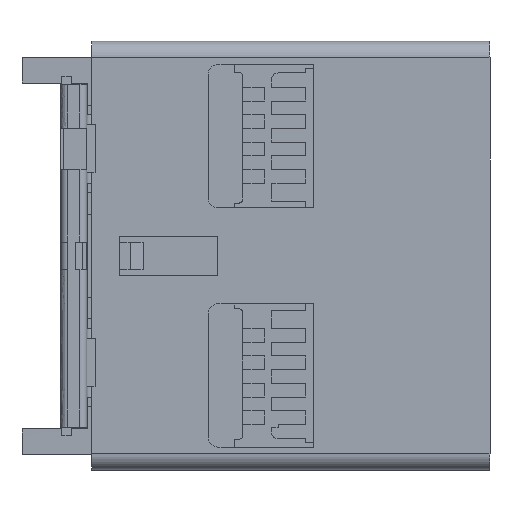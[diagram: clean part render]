
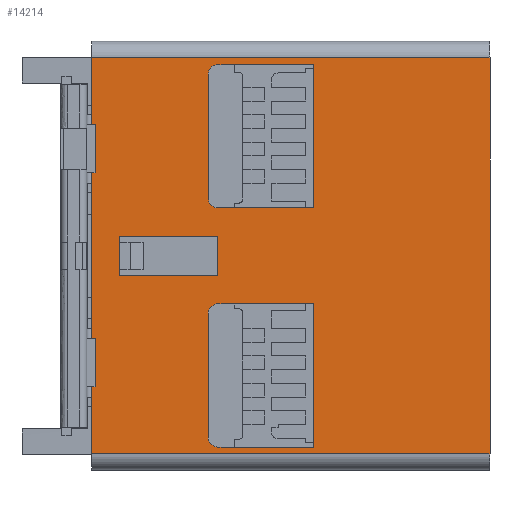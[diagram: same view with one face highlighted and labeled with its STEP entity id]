
A CAD part, top view. The second image highlights one B-rep face of the part: STEP entity #14214.
In plain terms, the highlighted free-form (B-spline) face has degree [1, 1] with [2, 2] control points.
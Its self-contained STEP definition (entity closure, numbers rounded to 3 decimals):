
#661=DIRECTION('',(1.,0.,0.));
#662=VECTOR('',#661,7.);
#663=CARTESIAN_POINT('',(-19.85,3.5,6.5));
#664=LINE('',#663,#662);
#722=DIRECTION('',(0.,1.,0.));
#723=VECTOR('',#722,11.55);
#724=CARTESIAN_POINT('',(0.,2.9,6.5));
#725=LINE('',#724,#723);
#726=DIRECTION('',(0.,-1.,0.));
#727=VECTOR('',#726,17.35);
#728=CARTESIAN_POINT('',(-29.05,2.9,6.5));
#729=LINE('',#728,#727);
#730=DIRECTION('',(-1.,0.,0.));
#731=VECTOR('',#730,7.2);
#732=CARTESIAN_POINT('',(-19.85,-1.4,6.5));
#733=LINE('',#732,#731);
#734=DIRECTION('',(0.,1.,0.));
#735=VECTOR('',#734,2.8);
#736=CARTESIAN_POINT('',(-27.05,-1.4,6.5));
#737=LINE('',#736,#735);
#738=DIRECTION('',(0.,-1.,0.));
#739=VECTOR('',#738,10.45);
#740=CARTESIAN_POINT('',(-12.85,-3.5,6.5));
#741=LINE('',#740,#739);
#742=CARTESIAN_POINT('',(-19.85,-4.2,6.5));
#743=DIRECTION('',(0.,0.,-1.));
#744=DIRECTION('',(-1.,0.,0.));
#745=AXIS2_PLACEMENT_3D('',#742,#743,#744);
#747=CARTESIAN_POINT('',(-19.85,-13.25,6.5));
#748=DIRECTION('',(0.,0.,-1.));
#749=DIRECTION('',(0.,-1.,0.));
#750=AXIS2_PLACEMENT_3D('',#747,#748,#749);
#752=DIRECTION('',(0.,-1.,0.));
#753=VECTOR('',#752,10.45);
#754=CARTESIAN_POINT('',(-12.85,13.95,6.5));
#755=LINE('',#754,#753);
#756=DIRECTION('',(1.,0.,0.));
#757=VECTOR('',#756,7.);
#758=CARTESIAN_POINT('',(-19.85,13.95,6.5));
#759=LINE('',#758,#757);
#760=CARTESIAN_POINT('',(-19.85,13.25,6.5));
#761=DIRECTION('',(0.,0.,-1.));
#762=DIRECTION('',(-1.,0.,0.));
#763=AXIS2_PLACEMENT_3D('',#760,#761,#762);
#765=CARTESIAN_POINT('',(-19.85,4.2,6.5));
#766=DIRECTION('',(0.,0.,-1.));
#767=DIRECTION('',(0.,-1.,0.));
#768=AXIS2_PLACEMENT_3D('',#765,#766,#767);
#770=DIRECTION('',(0.,-1.,0.));
#771=VECTOR('',#770,17.35);
#772=CARTESIAN_POINT('',(0.,2.9,6.5));
#773=LINE('',#772,#771);
#1042=DIRECTION('',(1.,0.,0.));
#1043=VECTOR('',#1042,29.05);
#1044=CARTESIAN_POINT('',(-29.05,14.45,6.5));
#1045=LINE('',#1044,#1043);
#1074=DIRECTION('',(0.,1.,0.));
#1075=VECTOR('',#1074,11.55);
#1076=CARTESIAN_POINT('',(-29.05,2.9,6.5));
#1077=LINE('',#1076,#1075);
#1082=DIRECTION('',(-1.,0.,0.));
#1083=VECTOR('',#1082,29.05);
#1084=CARTESIAN_POINT('',(0.,-14.45,6.5));
#1085=LINE('',#1084,#1083);
#5695=DIRECTION('',(1.,0.,0.));
#5696=VECTOR('',#5695,7.);
#5697=CARTESIAN_POINT('',(-19.85,-13.95,6.5));
#5698=LINE('',#5697,#5696);
#8789=DIRECTION('',(-1.,0.,0.));
#8790=VECTOR('',#8789,7.);
#8791=CARTESIAN_POINT('',(-12.85,-3.5,6.5));
#8792=LINE('',#8791,#8790);
#8858=DIRECTION('',(0.,-1.,0.));
#8859=VECTOR('',#8858,9.05);
#8860=CARTESIAN_POINT('',(-20.55,-4.2,6.5));
#8861=LINE('',#8860,#8859);
#9780=DIRECTION('',(0.,-1.,0.));
#9781=VECTOR('',#9780,9.05);
#9782=CARTESIAN_POINT('',(-20.55,13.25,6.5));
#9783=LINE('',#9782,#9781);
#10126=DIRECTION('',(-1.,0.,0.));
#10127=VECTOR('',#10126,7.2);
#10128=CARTESIAN_POINT('',(-19.85,1.4,6.5));
#10129=LINE('',#10128,#10127);
#10134=DIRECTION('',(0.,1.,0.));
#10135=VECTOR('',#10134,2.8);
#10136=CARTESIAN_POINT('',(-19.85,-1.4,6.5));
#10137=LINE('',#10136,#10135);
#11553=CARTESIAN_POINT('',(-19.85,3.5,6.5));
#11554=VERTEX_POINT('',#11553);
#11555=CARTESIAN_POINT('',(-12.85,3.5,6.5));
#11556=VERTEX_POINT('',#11555);
#11613=CARTESIAN_POINT('',(-12.85,13.95,6.5));
#11614=VERTEX_POINT('',#11613);
#11617=CARTESIAN_POINT('',(-20.55,4.2,6.5));
#11618=VERTEX_POINT('',#11617);
#11619=CARTESIAN_POINT('',(0.,2.9,6.5));
#11620=CARTESIAN_POINT('',(0.,14.45,6.5));
#11621=VERTEX_POINT('',#11619);
#11622=VERTEX_POINT('',#11620);
#11623=CARTESIAN_POINT('',(-29.05,14.45,6.5));
#11624=VERTEX_POINT('',#11623);
#11625=CARTESIAN_POINT('',(-29.05,2.9,6.5));
#11626=VERTEX_POINT('',#11625);
#11627=CARTESIAN_POINT('',(-29.05,-14.45,6.5));
#11628=VERTEX_POINT('',#11627);
#11629=CARTESIAN_POINT('',(0.,-14.45,6.5));
#11630=VERTEX_POINT('',#11629);
#11631=CARTESIAN_POINT('',(-19.85,-1.4,6.5));
#11632=CARTESIAN_POINT('',(-27.05,-1.4,6.5));
#11633=VERTEX_POINT('',#11631);
#11634=VERTEX_POINT('',#11632);
#11635=CARTESIAN_POINT('',(-27.05,1.4,6.5));
#11636=VERTEX_POINT('',#11635);
#11637=CARTESIAN_POINT('',(-19.85,1.4,6.5));
#11638=VERTEX_POINT('',#11637);
#11639=CARTESIAN_POINT('',(-12.85,-3.5,6.5));
#11640=CARTESIAN_POINT('',(-12.85,-13.95,6.5));
#11641=VERTEX_POINT('',#11639);
#11642=VERTEX_POINT('',#11640);
#11643=CARTESIAN_POINT('',(-19.85,-13.95,6.5));
#11644=VERTEX_POINT('',#11643);
#11645=CARTESIAN_POINT('',(-20.55,-13.25,6.5));
#11646=VERTEX_POINT('',#11645);
#11647=CARTESIAN_POINT('',(-20.55,-4.2,6.5));
#11648=VERTEX_POINT('',#11647);
#11649=CARTESIAN_POINT('',(-19.85,-3.5,6.5));
#11650=VERTEX_POINT('',#11649);
#11651=CARTESIAN_POINT('',(-20.55,13.25,6.5));
#11652=VERTEX_POINT('',#11651);
#11653=CARTESIAN_POINT('',(-19.85,13.95,6.5));
#11654=VERTEX_POINT('',#11653);
#14159=CARTESIAN_POINT('',(-29.631,-15.028,6.5));
#14160=CARTESIAN_POINT('',(-29.631,15.028,6.5));
#14161=CARTESIAN_POINT('',(0.581,-15.028,6.5));
#14162=CARTESIAN_POINT('',(0.581,15.028,6.5));
#14163=B_SPLINE_SURFACE_WITH_KNOTS('',1,1,((#14159,#14160),(#14161,#14162)),
.UNSPECIFIED.,.F.,.F.,.F.,(2,2),(2,2),(-29.631,0.581),(-17.928,12.128),
.UNSPECIFIED.);
#14165=ORIENTED_EDGE('',*,*,#14164,.F.);
#14167=ORIENTED_EDGE('',*,*,#14166,.T.);
#14169=ORIENTED_EDGE('',*,*,#14168,.T.);
#14171=ORIENTED_EDGE('',*,*,#14170,.F.);
#14173=ORIENTED_EDGE('',*,*,#14172,.T.);
#14175=ORIENTED_EDGE('',*,*,#14174,.T.);
#14176=EDGE_LOOP('',(#14165,#14167,#14169,#14171,#14173,#14175));
#14177=FACE_OUTER_BOUND('',#14176,.F.);
#14179=ORIENTED_EDGE('',*,*,#14178,.F.);
#14181=ORIENTED_EDGE('',*,*,#14180,.T.);
#14183=ORIENTED_EDGE('',*,*,#14182,.T.);
#14185=ORIENTED_EDGE('',*,*,#14184,.F.);
#14186=EDGE_LOOP('',(#14179,#14181,#14183,#14185));
#14187=FACE_BOUND('',#14186,.F.);
#14189=ORIENTED_EDGE('',*,*,#14188,.F.);
#14191=ORIENTED_EDGE('',*,*,#14190,.T.);
#14193=ORIENTED_EDGE('',*,*,#14192,.F.);
#14195=ORIENTED_EDGE('',*,*,#14194,.T.);
#14197=ORIENTED_EDGE('',*,*,#14196,.F.);
#14199=ORIENTED_EDGE('',*,*,#14198,.T.);
#14200=EDGE_LOOP('',(#14189,#14191,#14193,#14195,#14197,#14199));
#14201=FACE_BOUND('',#14200,.F.);
#14202=ORIENTED_EDGE('',*,*,#14094,.T.);
#14204=ORIENTED_EDGE('',*,*,#14203,.F.);
#14206=ORIENTED_EDGE('',*,*,#14205,.F.);
#14208=ORIENTED_EDGE('',*,*,#14207,.F.);
#14210=ORIENTED_EDGE('',*,*,#14209,.T.);
#14211=ORIENTED_EDGE('',*,*,#14151,.F.);
#14212=EDGE_LOOP('',(#14202,#14204,#14206,#14208,#14210,#14211));
#14213=FACE_BOUND('',#14212,.F.);
#14214=ADVANCED_FACE('',(#14177,#14187,#14201,#14213),#14163,.T.);
#746=CIRCLE('',#745,0.7);
#751=CIRCLE('',#750,0.7);
#764=CIRCLE('',#763,0.7);
#769=CIRCLE('',#768,0.7);
#14094=EDGE_CURVE('',#11554,#11556,#664,.T.);
#14151=EDGE_CURVE('',#11554,#11618,#769,.T.);
#14164=EDGE_CURVE('',#11621,#11622,#725,.T.);
#14166=EDGE_CURVE('',#11621,#11630,#773,.T.);
#14168=EDGE_CURVE('',#11630,#11628,#1085,.T.);
#14170=EDGE_CURVE('',#11626,#11628,#729,.T.);
#14172=EDGE_CURVE('',#11626,#11624,#1077,.T.);
#14174=EDGE_CURVE('',#11624,#11622,#1045,.T.);
#14178=EDGE_CURVE('',#11633,#11634,#733,.T.);
#14180=EDGE_CURVE('',#11633,#11638,#10137,.T.);
#14182=EDGE_CURVE('',#11638,#11636,#10129,.T.);
#14184=EDGE_CURVE('',#11634,#11636,#737,.T.);
#14188=EDGE_CURVE('',#11641,#11642,#741,.T.);
#14190=EDGE_CURVE('',#11641,#11650,#8792,.T.);
#14192=EDGE_CURVE('',#11648,#11650,#746,.T.);
#14194=EDGE_CURVE('',#11648,#11646,#8861,.T.);
#14196=EDGE_CURVE('',#11644,#11646,#751,.T.);
#14198=EDGE_CURVE('',#11644,#11642,#5698,.T.);
#14203=EDGE_CURVE('',#11614,#11556,#755,.T.);
#14205=EDGE_CURVE('',#11654,#11614,#759,.T.);
#14207=EDGE_CURVE('',#11652,#11654,#764,.T.);
#14209=EDGE_CURVE('',#11652,#11618,#9783,.T.);
